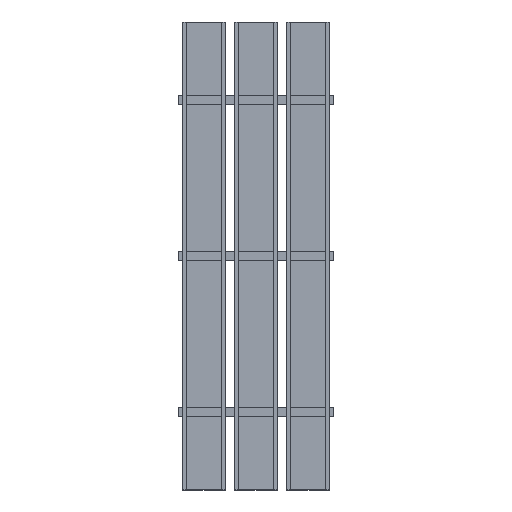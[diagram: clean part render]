
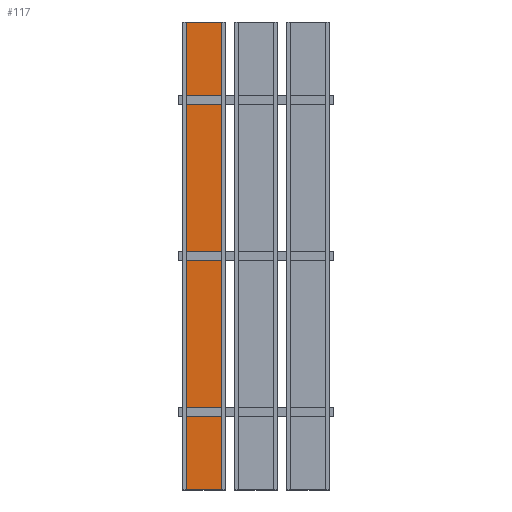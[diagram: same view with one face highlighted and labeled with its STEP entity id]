
A CAD part, top view. The second image highlights one B-rep face of the part: STEP entity #117.
In plain terms, the highlighted planar face has unit normal (0, 0, 1).
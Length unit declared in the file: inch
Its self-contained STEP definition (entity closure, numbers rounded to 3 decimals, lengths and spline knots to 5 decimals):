
#117=ADVANCED_FACE('',(#237),#2025,.T.);
#237=FACE_OUTER_BOUND('',#369,.T.);
#369=EDGE_LOOP('',(#766,#767,#768,#769));
#766=ORIENTED_EDGE('',*,*,#1280,.F.);
#767=ORIENTED_EDGE('',*,*,#1300,.T.);
#768=ORIENTED_EDGE('',*,*,#1286,.F.);
#769=ORIENTED_EDGE('',*,*,#1297,.F.);
#1280=EDGE_CURVE('',#1872,#1873,#1604,.T.);
#1286=EDGE_CURVE('',#1878,#1879,#1610,.T.);
#1297=EDGE_CURVE('',#1873,#1878,#1621,.T.);
#1300=EDGE_CURVE('',#1872,#1879,#1624,.T.);
#1604=B_SPLINE_CURVE_WITH_KNOTS('',1,(#3123,#3124),.UNSPECIFIED.,.F.,.F.,
(2,2),(0.,72.),.UNSPECIFIED.);
#1610=B_SPLINE_CURVE_WITH_KNOTS('',1,(#3135,#3136),.UNSPECIFIED.,.F.,.F.,
(2,2),(0.,72.),.UNSPECIFIED.);
#1621=B_SPLINE_CURVE_WITH_KNOTS('',1,(#3157,#3158),.UNSPECIFIED.,.F.,.F.,
(2,2),(0.,5.5),.UNSPECIFIED.);
#1624=B_SPLINE_CURVE_WITH_KNOTS('',1,(#3163,#3164),.UNSPECIFIED.,.F.,.F.,
(2,2),(0.,5.5),.UNSPECIFIED.);
#1872=VERTEX_POINT('',#2665);
#1873=VERTEX_POINT('',#2666);
#1878=VERTEX_POINT('',#2671);
#1879=VERTEX_POINT('',#2672);
#2025=PLANE('',#2236);
#2236=AXIS2_PLACEMENT_3D('',#2482,#2359,$);
#2359=DIRECTION('',(0.,0.,1.));
#2482=CARTESIAN_POINT('',(-12.69528,43.20472,-1.5));
#2665=CARTESIAN_POINT('',(-18.75,-36.,-1.5));
#2666=CARTESIAN_POINT('',(-18.75,36.,-1.5));
#2671=CARTESIAN_POINT('',(-13.25,36.,-1.5));
#2672=CARTESIAN_POINT('',(-13.25,-36.,-1.5));
#3123=CARTESIAN_POINT('',(-18.75,-36.,-1.5));
#3124=CARTESIAN_POINT('',(-18.75,36.,-1.5));
#3135=CARTESIAN_POINT('',(-13.25,36.,-1.5));
#3136=CARTESIAN_POINT('',(-13.25,-36.,-1.5));
#3157=CARTESIAN_POINT('',(-18.75,36.,-1.5));
#3158=CARTESIAN_POINT('',(-13.25,36.,-1.5));
#3163=CARTESIAN_POINT('',(-18.75,-36.,-1.5));
#3164=CARTESIAN_POINT('',(-13.25,-36.,-1.5));
